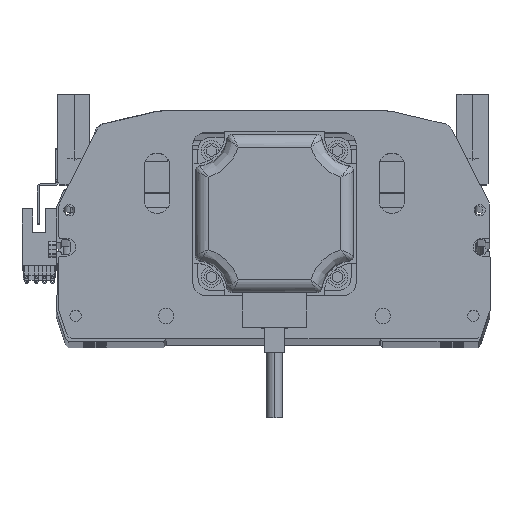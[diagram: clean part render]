
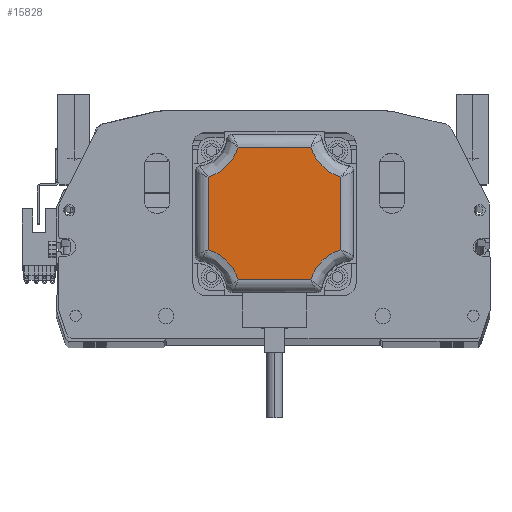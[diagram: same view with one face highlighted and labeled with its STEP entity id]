
A CAD part, top view. The second image highlights one B-rep face of the part: STEP entity #15828.
In plain terms, the highlighted planar face has unit normal (0, 0, 1) as drawn and (0, 0, -1) by its records, which use the part's own axes.
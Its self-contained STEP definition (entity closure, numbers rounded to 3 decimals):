
#2500 = CARTESIAN_POINT ( 'NONE',  ( 15.953, -20.219, -116.5 ) ) ;
#2599 = ORIENTED_EDGE ( 'NONE', *, *, #27519, .F. ) ;
#4273 = DIRECTION ( 'NONE',  ( 0., -1., 0. ) ) ;
#4944 = EDGE_CURVE ( 'NONE', #26161, #50146, #43154, .T. ) ;
#5054 = CARTESIAN_POINT ( 'NONE',  ( -26., -14.229, -116.5 ) ) ;
#5408 = EDGE_CURVE ( 'NONE', #31872, #12920, #11575, .T. ) ;
#5557 = CARTESIAN_POINT ( 'NONE',  ( -26., 14.229, -116.5 ) ) ;
#5678 = CARTESIAN_POINT ( 'NONE',  ( -26., 15.5, -116.5 ) ) ;
#5909 = LINE ( 'NONE', #5678, #44538 ) ;
#6079 = VECTOR ( 'NONE', #48668, 1000. ) ;
#6315 = AXIS2_PLACEMENT_3D ( 'NONE', #30108, #50227, #49546 ) ;
#7569 = ORIENTED_EDGE ( 'NONE', *, *, #14661, .F. ) ;
#9183 = EDGE_CURVE ( 'NONE', #31095, #18308, #27088, .T. ) ;
#9812 = CARTESIAN_POINT ( 'NONE',  ( -26., -14.229, -116.5 ) ) ;
#9885 = CARTESIAN_POINT ( 'NONE',  ( 20.219, -15.953, -116.5 ) ) ;
#11575 =( BOUNDED_CURVE ( )  B_SPLINE_CURVE ( 3, ( #14010, #37398, #13519, #21517 ),
 .UNSPECIFIED., .F., .F. ) 
 B_SPLINE_CURVE_WITH_KNOTS ( ( 4, 4 ),
 ( 0., 1. ),
 .UNSPECIFIED. ) 
 CURVE ( )  GEOMETRIC_REPRESENTATION_ITEM ( )  RATIONAL_B_SPLINE_CURVE ( ( 1., 0.92, 0.92, 1. ) ) 
 REPRESENTATION_ITEM ( '' )  );
#12205 = EDGE_CURVE ( 'NONE', #50146, #38418, #5909, .T. ) ;
#12745 = ORIENTED_EDGE ( 'NONE', *, *, #12205, .F. ) ;
#12920 = VERTEX_POINT ( 'NONE', #33409 ) ;
#13519 = CARTESIAN_POINT ( 'NONE',  ( 15.953, 20.219, -116.5 ) ) ;
#13871 = CARTESIAN_POINT ( 'NONE',  ( 26., -14.229, -116.5 ) ) ;
#13873 = ORIENTED_EDGE ( 'NONE', *, *, #9183, .F. ) ;
#14010 = CARTESIAN_POINT ( 'NONE',  ( 26., 14.229, -116.5 ) ) ;
#14661 = EDGE_CURVE ( 'NONE', #27043, #31872, #23370, .T. ) ;
#14981 = CARTESIAN_POINT ( 'NONE',  ( 26., -14.229, -116.5 ) ) ;
#15828 = ADVANCED_FACE ( 'NONE', ( #46854 ), #33945, .F. ) ;
#16509 = VECTOR ( 'NONE', #33971, 1000. ) ;
#16883 = CARTESIAN_POINT ( 'NONE',  ( -14.229, -26., -116.5 ) ) ;
#17571 = CARTESIAN_POINT ( 'NONE',  ( -20.219, -15.953, -116.5 ) ) ;
#18308 = VERTEX_POINT ( 'NONE', #22398 ) ;
#21517 = CARTESIAN_POINT ( 'NONE',  ( 14.229, 26., -116.5 ) ) ;
#22398 = CARTESIAN_POINT ( 'NONE',  ( 14.229, -26., -116.5 ) ) ;
#23370 = LINE ( 'NONE', #42402, #31499 ) ;
#25372 = CARTESIAN_POINT ( 'NONE',  ( -15.953, 20.219, -116.5 ) ) ;
#26161 = VERTEX_POINT ( 'NONE', #36419 ) ;
#26194 = EDGE_CURVE ( 'NONE', #12920, #26161, #36062, .T. ) ;
#27043 = VERTEX_POINT ( 'NONE', #14981 ) ;
#27088 = LINE ( 'NONE', #38330, #16509 ) ;
#27519 = EDGE_CURVE ( 'NONE', #38418, #31095, #35212, .T. ) ;
#28578 = ORIENTED_EDGE ( 'NONE', *, *, #5408, .F. ) ;
#29567 = CARTESIAN_POINT ( 'NONE',  ( -20.219, 15.953, -116.5 ) ) ;
#30108 = CARTESIAN_POINT ( 'NONE',  ( 0., 0., -116.5 ) ) ;
#30923 = CARTESIAN_POINT ( 'NONE',  ( -14.229, -26., -116.5 ) ) ;
#31095 = VERTEX_POINT ( 'NONE', #30923 ) ;
#31499 = VECTOR ( 'NONE', #39105, 1000. ) ;
#31872 = VERTEX_POINT ( 'NONE', #37116 ) ;
#32451 = ORIENTED_EDGE ( 'NONE', *, *, #48051, .F. ) ;
#32933 = CARTESIAN_POINT ( 'NONE',  ( -15.953, -20.219, -116.5 ) ) ;
#33409 = CARTESIAN_POINT ( 'NONE',  ( 14.229, 26., -116.5 ) ) ;
#33441 = ORIENTED_EDGE ( 'NONE', *, *, #26194, .F. ) ;
#33936 = ORIENTED_EDGE ( 'NONE', *, *, #4944, .F. ) ;
#33945 = PLANE ( 'NONE',  #6315 ) ;
#33971 = DIRECTION ( 'NONE',  ( 1., 0., 0. ) ) ;
#35212 =( BOUNDED_CURVE ( )  B_SPLINE_CURVE ( 3, ( #5054, #17571, #32933, #16883 ),
 .UNSPECIFIED., .F., .F. ) 
 B_SPLINE_CURVE_WITH_KNOTS ( ( 4, 4 ),
 ( 0., 1. ),
 .UNSPECIFIED. ) 
 CURVE ( )  GEOMETRIC_REPRESENTATION_ITEM ( )  RATIONAL_B_SPLINE_CURVE ( ( 1., 0.92, 0.92, 1. ) ) 
 REPRESENTATION_ITEM ( '' )  );
#36062 = LINE ( 'NONE', #36598, #6079 ) ;
#36376 = CARTESIAN_POINT ( 'NONE',  ( -26., 14.229, -116.5 ) ) ;
#36419 = CARTESIAN_POINT ( 'NONE',  ( -14.229, 26., -116.5 ) ) ;
#36598 = CARTESIAN_POINT ( 'NONE',  ( 15.5, 26., -116.5 ) ) ;
#37116 = CARTESIAN_POINT ( 'NONE',  ( 26., 14.229, -116.5 ) ) ;
#37398 = CARTESIAN_POINT ( 'NONE',  ( 20.219, 15.953, -116.5 ) ) ;
#37913 = CARTESIAN_POINT ( 'NONE',  ( 14.229, -26., -116.5 ) ) ;
#38330 = CARTESIAN_POINT ( 'NONE',  ( -15.5, -26., -116.5 ) ) ;
#38418 = VERTEX_POINT ( 'NONE', #9812 ) ;
#39105 = DIRECTION ( 'NONE',  ( 0., 1., 0. ) ) ;
#39231 = EDGE_LOOP ( 'NONE', ( #33936, #33441, #28578, #7569, #32451, #13873, #2599, #12745 ) ) ;
#41225 =( BOUNDED_CURVE ( )  B_SPLINE_CURVE ( 3, ( #37913, #2500, #9885, #13871 ),
 .UNSPECIFIED., .F., .F. ) 
 B_SPLINE_CURVE_WITH_KNOTS ( ( 4, 4 ),
 ( 0., 1. ),
 .UNSPECIFIED. ) 
 CURVE ( )  GEOMETRIC_REPRESENTATION_ITEM ( )  RATIONAL_B_SPLINE_CURVE ( ( 1., 0.92, 0.92, 1. ) ) 
 REPRESENTATION_ITEM ( '' )  );
#42402 = CARTESIAN_POINT ( 'NONE',  ( 26., -15.5, -116.5 ) ) ;
#43154 =( BOUNDED_CURVE ( )  B_SPLINE_CURVE ( 3, ( #45222, #25372, #29567, #5557 ),
 .UNSPECIFIED., .F., .T. ) 
 B_SPLINE_CURVE_WITH_KNOTS ( ( 4, 4 ),
 ( 0., 1. ),
 .UNSPECIFIED. ) 
 CURVE ( )  GEOMETRIC_REPRESENTATION_ITEM ( )  RATIONAL_B_SPLINE_CURVE ( ( 1., 0.92, 0.92, 1. ) ) 
 REPRESENTATION_ITEM ( '' )  );
#44538 = VECTOR ( 'NONE', #4273, 1000. ) ;
#45222 = CARTESIAN_POINT ( 'NONE',  ( -14.229, 26., -116.5 ) ) ;
#46854 = FACE_OUTER_BOUND ( 'NONE', #39231, .T. ) ;
#48051 = EDGE_CURVE ( 'NONE', #18308, #27043, #41225, .T. ) ;
#48668 = DIRECTION ( 'NONE',  ( -1., 0., 0. ) ) ;
#49546 = DIRECTION ( 'NONE',  ( 1., 0., 0. ) ) ;
#50146 = VERTEX_POINT ( 'NONE', #36376 ) ;
#50227 = DIRECTION ( 'NONE',  ( 0., 0., 1. ) ) ;
